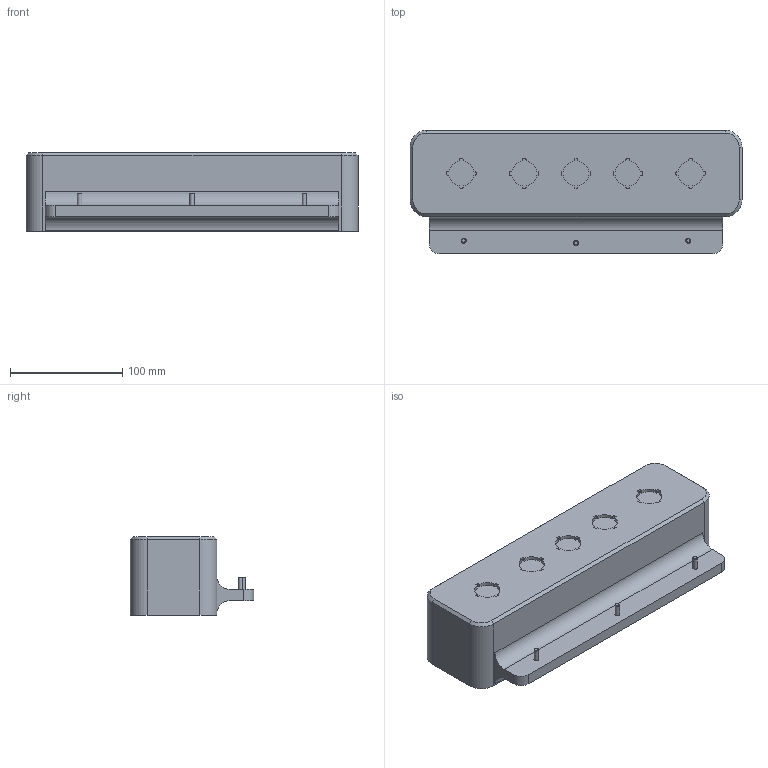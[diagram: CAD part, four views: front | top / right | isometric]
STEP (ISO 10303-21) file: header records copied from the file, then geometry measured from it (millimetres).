
FILE_DESCRIPTION(/* description */ (''),/* implementation_level */ '2;1');
FILE_NAME(/* name */ 'C:\SAPInventorWork\778-90204_EXTERN.stp',/* time_stamp */ '2024-02-21T11:27:46+01:00',/* author */ ('Aiple'),/* organization */ (''),/* preprocessor_version */ 'ST-DEVELOPER v18.1',/* originating_system */ 'Autodesk Inventor 2021',/* authorisation */ '');
FILE_SCHEMA (('AUTOMOTIVE_DESIGN { 1 0 10303 214 3 1 1 }'));
Length unit declared in the file: millimetre
Products named in the file (1): 778-90204
Bounding box: 295.6 x 109.9 x 70.08 mm (x, y, z)
Volume: 1670155.6 mm3; surface area: 119165 mm2
Topology: 1 solids, 13 shells, 600 faces, 1628 edges, 1076 vertices
Faces by surface type: cylinder 309, plane 148, cone 140, torus 3
Full cylindrical faces by diameter (mm): 3 x12, 4 x15, 4.5 x3, 5.54 x12, 7 x3, 8 x3, 20.3 x1
Entity records: 23273 total; most frequent: CARTESIAN_POINT 8165, ORIENTED_EDGE 3226, DIRECTION 2703, EDGE_CURVE 1613, VERTEX_POINT 1076, AXIS2_PLACEMENT_3D 1044, EDGE_LOOP 661, LINE 615
